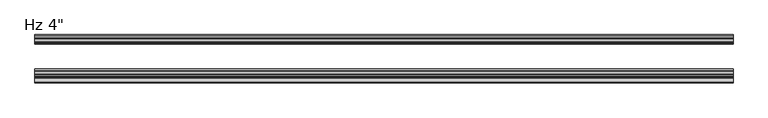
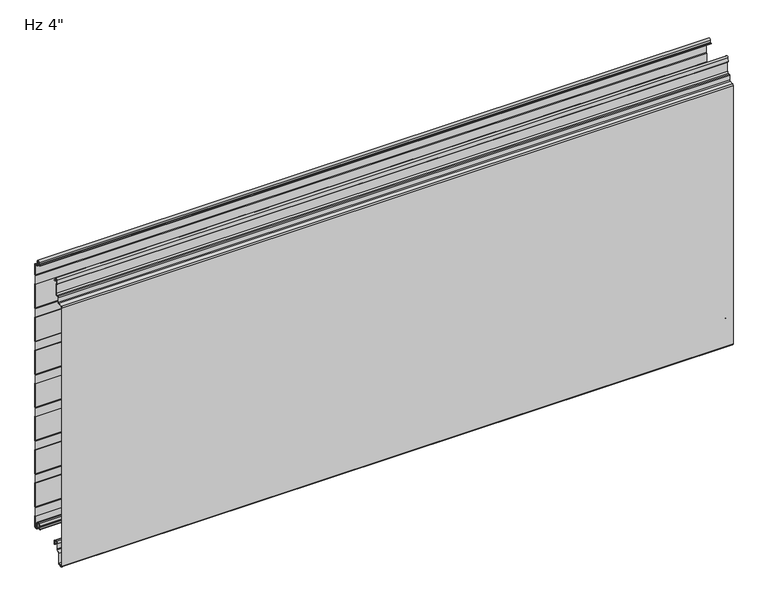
"""IFC4 building model written with IfcOpenShell, lengths in millimetres: plate geometry."""

from ifc_helpers import new_model, si_unit, point, frame, frame_2d, origin, place, context, project, spatial, polyline, circle_curve, trimmed, segment, composite_curve, outline, extrude, source, transform, mapped, element, save
from ifc_brep_helpers import plane_surface, cylinder_surface, revolved_surface, advanced_brep


def plate_d76c51f2(model_context):
    return source(origin(), model_context, "Body", "SolidModel", [
        advanced_brep(
        [(-730.0, -17.0015159, 2.0313088), (-730.0, -18.0015191, 1.0313116), (-730.0, -19.0015104, 2.0313088), (-730.0, -19.0015105, 6.0315125), (-730.0, -18.0015159, 6.0315125), (-730.0, -18.0015159, 8.7237223), (-730.0, -14.7015202, 12.023718), (-730.0, -10.301529, 12.023718), (-730.0, -7.0015335, 8.7237225), (-730.0, -7.0015335, -1.6962564), (-730.0, -5.2315393, -3.4662506), (-730.0, -0.9999916, -3.4662506), (-730.0, -0.9999916, 21.034026), (-730.0, -2.2002307, 22.4196686), (-730.0, -2.2002307, 41.7948349), (-730.0, -1.0, 43.1804679), (-730.0, -1.0, 97.2338833), (-730.0, -2.2002307, 98.6195162), (-730.0, -2.2002307, 117.9946825), (-730.0, -1.0, 119.3803155), (-730.0, -1.0, 173.4337309), (-730.0, -2.2002307, 174.8193638), (-730.0, -2.2002307, 194.1945301), (-730.0, -1.0, 195.5801631), (-730.0, -1.0, 249.6335785), (-730.0, -2.2002307, 251.0192114), (-730.0, -2.2002307, 270.3943777), (-730.0, -1.0, 271.7800107), (-730.0, -1.0, 325.8334261), (-730.0, -2.2002307, 327.219059), (-730.0, -2.2002307, 346.5942253), (-730.0, -1.0, 347.9798583), (-730.0, -1.0, 402.0332737), (-730.0, -2.2002307, 403.4189066), (-730.0, -2.2002307, 422.7940729), (-730.0, -1.0, 424.1797059), (-730.0, -1.0, 478.2331213), (-730.0, -2.2002307, 479.6187542), (-730.0, -2.2002307, 498.9939205), (-730.0, -1.0, 500.3795535), (-730.0, -1.0, 554.4329689), (-730.0, -2.2002307, 555.8186018), (-730.0, -2.2002307, 575.1937681), (-730.0, -1.0, 576.5794011), (-730.0, -1.0, 601.0787013), (-730.0, -6.0026007, 601.0787013), (-730.0, -9.9974365, 604.9016499), (-730.0, -10.4046442, 613.3931719), (-730.0, -14.7059822, 613.3921924), (-730.0, -14.9256429, 609.2513685), (-730.0, -16.6743462, 607.5686884), (-730.0, -19.0015288, 607.5686884), (-730.0, -19.0015288, 608.5686884), (-730.0, -16.6743462, 608.5686884), (-730.0, -15.9247038, 609.2955779), (-730.0, -15.7045782, 613.4451655), (-730.0, -9.405912, 613.4435732), (-730.0, -8.9985844, 604.9495495), (-730.0, -6.0004836, 602.0787013), (-730.0, -1.4015652, 602.0787013), (-730.0, -0.001568, 600.678797), (-730.0, 2.09e-05, 576.7275849), (-730.0, -0.3417885, 575.8119353), (-730.0, -1.2002307, 574.8208877), (-730.0, -1.2002307, 556.1914823), (-730.0, -0.3417885, 555.2004346), (-730.0, 0.0, 554.2838177), (-730.0, 0.0, 500.5287046), (-730.0, -0.3417885, 499.6120877), (-730.0, -1.2002307, 498.6210401), (-730.0, -1.2002307, 479.9916347), (-730.0, -0.3417885, 479.000587), (-730.0, 0.0, 478.0839701), (-730.0, 0.0, 424.328857), (-730.0, -0.3417885, 423.4122401), (-730.0, -1.2002307, 422.4211925), (-730.0, -1.2002307, 403.7917871), (-730.0, -0.3417885, 402.8007394), (-730.0, 0.0, 401.8841225), (-730.0, 0.0, 348.1290094), (-730.0, -0.3417885, 347.2123925), (-730.0, -1.2002307, 346.2213449), (-730.0, -1.2002307, 327.5919395), (-730.0, -0.3417885, 326.6008918), (-730.0, 0.0, 325.6842749), (-730.0, 0.0, 271.9291618), (-730.0, -0.3417885, 271.0125449), (-730.0, -1.2002307, 270.0214973), (-730.0, -1.2002307, 251.3920919), (-730.0, -0.3417885, 250.4010442), (-730.0, 0.0, 249.4844273), (-730.0, 0.0, 195.7293142), (-730.0, -0.3417885, 194.8126973), (-730.0, -1.2002307, 193.8216497), (-730.0, -1.2002307, 175.1922443), (-730.0, -0.3417885, 174.2011966), (-730.0, 0.0, 173.2845797), (-730.0, 0.0, 119.5294666), (-730.0, -0.3417885, 118.6128497), (-730.0, -1.2002307, 117.6218021), (-730.0, -1.2002307, 98.9923967), (-730.0, -0.3417885, 98.001349), (-730.0, 0.0, 97.0847321), (-730.0, 0.0, 43.329619), (-730.0, -0.3417885, 42.4130021), (-730.0, -1.2002307, 41.4219545), (-730.0, -1.2002307, 22.7925491), (-730.0, -0.3417885, 21.8015014), (-730.0, 0.0, 20.8847931), (-730.0, 8.4e-06, -3.0662545), (-730.0, -1.3999878, -4.4662506), (-730.0, -5.2315393, -4.4662506), (-730.0, -8.0015335, -1.6962564), (-730.0, -8.0015335, 8.7237225), (-730.0, -10.301529, 11.023718), (-730.0, -14.7015202, 11.023718), (-730.0, -17.0015159, 8.7237223), (730.0, -17.0015159, 2.0313088), (730.0, -17.0015159, 8.7237223), (730.0, -14.7015202, 11.023718), (730.0, -10.301529, 11.023718), (730.0, -8.0015335, 8.7237225), (730.0, -8.0015335, -1.6962564), (730.0, -5.2315393, -4.4662506), (730.0, -1.3999878, -4.4662506), (730.0, 8.4e-06, -3.0662545), (730.0, 8.4e-06, 20.8848845), (730.0, -0.3417885, 21.8015014), (730.0, -1.2002307, 22.7925491), (730.0, -1.2002307, 41.4219545), (730.0, -0.3417885, 42.4130021), (730.0, 0.0, 43.329619), (730.0, 0.0, 97.0847321), (730.0, -0.3417885, 98.001349), (730.0, -1.2002307, 98.9923967), (730.0, -1.2002307, 117.6218021), (730.0, -0.3417885, 118.6128497), (730.0, 0.0, 119.5294666), (730.0, 0.0, 173.2845797), (730.0, -0.3417885, 174.2011966), (730.0, -1.2002307, 175.1922443), (730.0, -1.2002307, 193.8216497), (730.0, -0.3417885, 194.8126973), (730.0, 0.0, 195.7293142), (730.0, 0.0, 249.4844273), (730.0, -0.3417885, 250.4010442), (730.0, -1.2002307, 251.3920919), (730.0, -1.2002307, 270.0214973), (730.0, -0.3417885, 271.0125449), (730.0, 0.0, 271.9291618), (730.0, 0.0, 325.6842749), (730.0, -0.3417885, 326.6008918), (730.0, -1.2002307, 327.5919395), (730.0, -1.2002307, 346.2213449), (730.0, -0.3417885, 347.2123925), (730.0, 0.0, 348.1290094), (730.0, 0.0, 401.8841225), (730.0, -0.3417885, 402.8007394), (730.0, -1.2002307, 403.7917871), (730.0, -1.2002307, 422.4211925), (730.0, -0.3417885, 423.4122401), (730.0, 0.0, 424.328857), (730.0, 0.0, 478.0839701), (730.0, -0.3417885, 479.000587), (730.0, -1.2002307, 479.9916347), (730.0, -1.2002307, 498.6210401), (730.0, -0.3417885, 499.6120877), (730.0, 0.0, 500.5287046), (730.0, 0.0, 554.2838177), (730.0, -0.3417885, 555.2004346), (730.0, -1.2002307, 556.1914823), (730.0, -1.2002307, 574.8208877), (730.0, -0.3417885, 575.8119353), (730.0, 0.0, 576.7285522), (730.0, 2.09e-05, 600.678797), (730.0, -1.4015652, 602.0787013), (730.0, -6.0004836, 602.0787013), (730.0, -8.9985844, 604.9495495), (730.0, -9.405912, 613.4435732), (730.0, -15.7045782, 613.4451655), (730.0, -15.9247038, 609.2955779), (730.0, -16.6743462, 608.5686884), (730.0, -19.0015288, 608.5686884), (730.0, -19.0015288, 607.5686884), (730.0, -16.6743462, 607.5686884), (730.0, -14.9256429, 609.2513685), (730.0, -14.7059822, 613.3921924), (730.0, -10.4046442, 613.3931719), (730.0, -9.9974365, 604.9016499), (730.0, -6.0026007, 601.0787013), (730.0, -1.0, 601.0787013), (730.0, -1.0, 576.5794011), (730.0, -2.2002307, 575.1937681), (730.0, -2.2002307, 555.8186018), (730.0, -1.0, 554.4329689), (730.0, -1.0, 500.3795535), (730.0, -2.2002307, 498.9939205), (730.0, -2.2002307, 479.6187542), (730.0, -1.0, 478.2331213), (730.0, -1.0, 424.1797059), (730.0, -2.2002307, 422.7940729), (730.0, -2.2002307, 403.4189066), (730.0, -1.0, 402.0332737), (730.0, -1.0, 347.9798583), (730.0, -2.2002307, 346.5942253), (730.0, -2.2002307, 327.219059), (730.0, -1.0, 325.8334261), (730.0, -1.0, 271.7800107), (730.0, -2.2002307, 270.3943777), (730.0, -2.2002307, 251.0192114), (730.0, -1.0, 249.6335785), (730.0, -1.0, 195.5801631), (730.0, -2.2002307, 194.1945301), (730.0, -2.2002307, 174.8193638), (730.0, -1.0, 173.4337309), (730.0, -1.0, 119.3803155), (730.0, -2.2002307, 117.9946825), (730.0, -2.2002307, 98.6195162), (730.0, -1.0, 97.2338833), (730.0, -1.0, 43.1804679), (730.0, -2.2002307, 41.7948349), (730.0, -2.2002307, 22.4196686), (730.0, -0.9999916, 21.034026), (730.0, -0.9999916, -3.4662506), (730.0, -5.2315393, -3.4662506), (730.0, -7.0015335, -1.6962564), (730.0, -7.0015335, 8.7237225), (730.0, -10.301529, 12.023718), (730.0, -14.7015202, 12.023718), (730.0, -18.0015159, 8.7237223), (730.0, -18.0015159, 6.0315125), (730.0, -19.0015105, 6.0315125), (730.0, -19.0015105, 2.0313088), (730.0, -18.0015191, 1.0313116)],
        [
            (0, 1, circle_curve(frame((-730.0, -18.0015132, 2.0313088), z_axis=(-1.0, 0.0, 0.0), x_axis=(0.0, 0.0, 1.0)), 0.9999973)),
            (1, 2, circle_curve(frame((-730.0, -18.0015132, 2.0313088), z_axis=(-1.0, 0.0, 0.0), x_axis=(0.0, 0.0, 1.0)), 0.9999972)),
            (2, 3),
            (3, 4),
            (4, 5),
            (5, 6, circle_curve(frame((-730.0, -14.7015202, 8.7237223), z_axis=(-1.0, 0.0, 0.0), x_axis=(0.0, 0.0, 1.0)), 3.2999957)),
            (6, 7),
            (7, 8, circle_curve(frame((-730.0, -10.301529, 8.7237225), z_axis=(-1.0, 0.0, 0.0), x_axis=(0.0, 0.0, 1.0)), 3.2999955)),
            (8, 9),
            (9, 10, circle_curve(frame((-730.0, -5.2315393, -1.6962564), z_axis=(1.0, 0.0, 0.0), x_axis=(0.0, 0.0, 1.0)), 1.7699942)),
            (10, 11),
            (11, 12),
            (12, 13),
            (13, 14),
            (14, 15),
            (15, 16),
            (16, 17),
            (17, 18),
            (18, 19),
            (19, 20),
            (20, 21),
            (21, 22),
            (22, 23),
            (23, 24),
            (24, 25),
            (25, 26),
            (26, 27),
            (27, 28),
            (28, 29),
            (29, 30),
            (30, 31),
            (31, 32),
            (32, 33),
            (33, 34),
            (34, 35),
            (35, 36),
            (36, 37),
            (37, 38),
            (38, 39),
            (39, 40),
            (40, 41),
            (41, 42),
            (42, 43),
            (43, 44),
            (44, 45),
            (45, 46, circle_curve(frame((-730.0, -5.9867338, 605.0939817), z_axis=(-1.0, 0.0, 0.0), x_axis=(0.0, 0.0, 1.0)), 4.0153117)),
            (46, 47),
            (47, 48, circle_curve(frame((-730.0, -12.5552871, 613.2781032), z_axis=(1.0, 0.0, 0.0), x_axis=(0.0, 0.0, 1.0)), 2.153719)),
            (48, 49),
            (49, 50, circle_curve(frame((-730.0, -16.6743462, 609.3186869), z_axis=(-1.0, 0.0, 0.0), x_axis=(0.0, 0.0, 1.0)), 1.7499985)),
            (50, 51),
            (51, 52),
            (52, 53),
            (53, 54, circle_curve(frame((-730.0, -16.6743462, 609.3186869), z_axis=(1.0, 0.0, 0.0), x_axis=(0.0, 0.0, 1.0)), 0.7499985)),
            (54, 55),
            (55, 56, circle_curve(frame((-730.0, -12.5552871, 613.2781032), z_axis=(-1.0, 0.0, 0.0), x_axis=(0.0, 0.0, 1.0)), 3.153719)),
            (56, 57),
            (57, 58, circle_curve(frame((-730.0, -5.9867338, 605.0939817), z_axis=(1.0, 0.0, 0.0), x_axis=(0.0, 0.0, 1.0)), 3.0153117)),
            (58, 59),
            (59, 60, circle_curve(frame((-730.0, -1.4015652, 600.6787041), z_axis=(-1.0, 0.0, 0.0), x_axis=(0.0, 0.0, 1.0)), 1.3999972)),
            (60, 61),
            (61, 62, circle_curve(frame((-730.0, -1.3999972, 576.7285522), z_axis=(-1.0, 0.0, 0.0), x_axis=(0.0, 0.0, 1.0)), 1.3999972)),
            (62, 63),
            (63, 64),
            (64, 65),
            (65, 66, circle_curve(frame((-730.0, -1.3999972, 554.2838177), z_axis=(-1.0, 0.0, 0.0), x_axis=(0.0, 0.0, 1.0)), 1.3999972)),
            (66, 67),
            (67, 68, circle_curve(frame((-730.0, -1.3999972, 500.5287046), z_axis=(-1.0, 0.0, 0.0), x_axis=(0.0, 0.0, 1.0)), 1.3999972)),
            (68, 69),
            (69, 70),
            (70, 71),
            (71, 72, circle_curve(frame((-730.0, -1.3999972, 478.0839701), z_axis=(-1.0, 0.0, 0.0), x_axis=(0.0, 0.0, 1.0)), 1.3999972)),
            (72, 73),
            (73, 74, circle_curve(frame((-730.0, -1.3999972, 424.328857), z_axis=(-1.0, 0.0, 0.0), x_axis=(0.0, 0.0, 1.0)), 1.3999972)),
            (74, 75),
            (75, 76),
            (76, 77),
            (77, 78, circle_curve(frame((-730.0, -1.3999972, 401.8841225), z_axis=(-1.0, 0.0, 0.0), x_axis=(0.0, 0.0, 1.0)), 1.3999972)),
            (78, 79),
            (79, 80, circle_curve(frame((-730.0, -1.3999972, 348.1290094), z_axis=(-1.0, 0.0, 0.0), x_axis=(0.0, 0.0, 1.0)), 1.3999972)),
            (80, 81),
            (81, 82),
            (82, 83),
            (83, 84, circle_curve(frame((-730.0, -1.3999972, 325.6842749), z_axis=(-1.0, 0.0, 0.0), x_axis=(0.0, 0.0, 1.0)), 1.3999972)),
            (84, 85),
            (85, 86, circle_curve(frame((-730.0, -1.3999972, 271.9291618), z_axis=(-1.0, 0.0, 0.0), x_axis=(0.0, 0.0, 1.0)), 1.3999972)),
            (86, 87),
            (87, 88),
            (88, 89),
            (89, 90, circle_curve(frame((-730.0, -1.3999972, 249.4844273), z_axis=(-1.0, 0.0, 0.0), x_axis=(0.0, 0.0, 1.0)), 1.3999972)),
            (90, 91),
            (91, 92, circle_curve(frame((-730.0, -1.3999972, 195.7293142), z_axis=(-1.0, 0.0, 0.0), x_axis=(0.0, 0.0, 1.0)), 1.3999972)),
            (92, 93),
            (93, 94),
            (94, 95),
            (95, 96, circle_curve(frame((-730.0, -1.3999972, 173.2845797), z_axis=(-1.0, 0.0, 0.0), x_axis=(0.0, 0.0, 1.0)), 1.3999972)),
            (96, 97),
            (97, 98, circle_curve(frame((-730.0, -1.3999972, 119.5294666), z_axis=(-1.0, 0.0, 0.0), x_axis=(0.0, 0.0, 1.0)), 1.3999972)),
            (98, 99),
            (99, 100),
            (100, 101),
            (101, 102, circle_curve(frame((-730.0, -1.3999972, 97.0847321), z_axis=(-1.0, 0.0, 0.0), x_axis=(0.0, 0.0, 1.0)), 1.3999972)),
            (102, 103),
            (103, 104, circle_curve(frame((-730.0, -1.3999972, 43.329619), z_axis=(-1.0, 0.0, 0.0), x_axis=(0.0, 0.0, 1.0)), 1.3999972)),
            (104, 105),
            (105, 106),
            (106, 107),
            (107, 108, circle_curve(frame((-730.0, -1.3999972, 20.8848845), z_axis=(-1.0, 0.0, 0.0), x_axis=(0.0, 0.0, 1.0)), 1.3999972)),
            (108, 109),
            (109, 110, circle_curve(frame((-730.0, -1.3999878, -3.0662545), z_axis=(-1.0, 0.0, 0.0), x_axis=(0.0, 0.0, 1.0)), 1.3999962)),
            (110, 111),
            (111, 112, circle_curve(frame((-730.0, -5.2315393, -1.6962564), z_axis=(-1.0, 0.0, 0.0), x_axis=(0.0, 0.0, 1.0)), 2.7699942)),
            (112, 113),
            (113, 114, circle_curve(frame((-730.0, -10.301529, 8.7237225), z_axis=(1.0, 0.0, 0.0), x_axis=(0.0, 0.0, 1.0)), 2.2999955)),
            (114, 115),
            (115, 116, circle_curve(frame((-730.0, -14.7015202, 8.7237223), z_axis=(1.0, 0.0, 0.0), x_axis=(0.0, 0.0, 1.0)), 2.2999957)),
            (116, 0),
            (117, 118),
            (118, 119, circle_curve(frame((730.0, -14.7015202, 8.7237223), z_axis=(-1.0, 0.0, 0.0), x_axis=(0.0, 0.0, 1.0)), 2.2999957)),
            (119, 120),
            (120, 121, circle_curve(frame((730.0, -10.301529, 8.7237225), z_axis=(-1.0, 0.0, 0.0), x_axis=(0.0, 0.0, 1.0)), 2.2999955)),
            (121, 122),
            (122, 123, circle_curve(frame((730.0, -5.2315393, -1.6962564), z_axis=(1.0, 0.0, 0.0), x_axis=(0.0, 0.0, 1.0)), 2.7699942)),
            (123, 124),
            (124, 125, circle_curve(frame((730.0, -1.3999878, -3.0662545), z_axis=(1.0, 0.0, 0.0), x_axis=(0.0, 0.0, 1.0)), 1.3999962)),
            (125, 126),
            (126, 127, circle_curve(frame((730.0, -1.3999972, 20.8848845), z_axis=(1.0, 0.0, 0.0), x_axis=(0.0, 0.0, 1.0)), 1.3999972)),
            (127, 128),
            (128, 129),
            (129, 130),
            (130, 131, circle_curve(frame((730.0, -1.3999972, 43.329619), z_axis=(1.0, 0.0, 0.0), x_axis=(0.0, 0.0, 1.0)), 1.3999972)),
            (131, 132),
            (132, 133, circle_curve(frame((730.0, -1.3999972, 97.0847321), z_axis=(1.0, 0.0, 0.0), x_axis=(0.0, 0.0, 1.0)), 1.3999972)),
            (133, 134),
            (134, 135),
            (135, 136),
            (136, 137, circle_curve(frame((730.0, -1.3999972, 119.5294666), z_axis=(1.0, 0.0, 0.0), x_axis=(0.0, 0.0, 1.0)), 1.3999972)),
            (137, 138),
            (138, 139, circle_curve(frame((730.0, -1.3999972, 173.2845797), z_axis=(1.0, 0.0, 0.0), x_axis=(0.0, 0.0, 1.0)), 1.3999972)),
            (139, 140),
            (140, 141),
            (141, 142),
            (142, 143, circle_curve(frame((730.0, -1.3999972, 195.7293142), z_axis=(1.0, 0.0, 0.0), x_axis=(0.0, 0.0, 1.0)), 1.3999972)),
            (143, 144),
            (144, 145, circle_curve(frame((730.0, -1.3999972, 249.4844273), z_axis=(1.0, 0.0, 0.0), x_axis=(0.0, 0.0, 1.0)), 1.3999972)),
            (145, 146),
            (146, 147),
            (147, 148),
            (148, 149, circle_curve(frame((730.0, -1.3999972, 271.9291618), z_axis=(1.0, 0.0, 0.0), x_axis=(0.0, 0.0, 1.0)), 1.3999972)),
            (149, 150),
            (150, 151, circle_curve(frame((730.0, -1.3999972, 325.6842749), z_axis=(1.0, 0.0, 0.0), x_axis=(0.0, 0.0, 1.0)), 1.3999972)),
            (151, 152),
            (152, 153),
            (153, 154),
            (154, 155, circle_curve(frame((730.0, -1.3999972, 348.1290094), z_axis=(1.0, 0.0, 0.0), x_axis=(0.0, 0.0, 1.0)), 1.3999972)),
            (155, 156),
            (156, 157, circle_curve(frame((730.0, -1.3999972, 401.8841225), z_axis=(1.0, 0.0, 0.0), x_axis=(0.0, 0.0, 1.0)), 1.3999972)),
            (157, 158),
            (158, 159),
            (159, 160),
            (160, 161, circle_curve(frame((730.0, -1.3999972, 424.328857), z_axis=(1.0, 0.0, 0.0), x_axis=(0.0, 0.0, 1.0)), 1.3999972)),
            (161, 162),
            (162, 163, circle_curve(frame((730.0, -1.3999972, 478.0839701), z_axis=(1.0, 0.0, 0.0), x_axis=(0.0, 0.0, 1.0)), 1.3999972)),
            (163, 164),
            (164, 165),
            (165, 166),
            (166, 167, circle_curve(frame((730.0, -1.3999972, 500.5287046), z_axis=(1.0, 0.0, 0.0), x_axis=(0.0, 0.0, 1.0)), 1.3999972)),
            (167, 168),
            (168, 169, circle_curve(frame((730.0, -1.3999972, 554.2838177), z_axis=(1.0, 0.0, 0.0), x_axis=(0.0, 0.0, 1.0)), 1.3999972)),
            (169, 170),
            (170, 171),
            (171, 172),
            (172, 173, circle_curve(frame((730.0, -1.3999972, 576.7285522), z_axis=(1.0, 0.0, 0.0), x_axis=(0.0, 0.0, 1.0)), 1.3999972)),
            (173, 174),
            (174, 175, circle_curve(frame((730.0, -1.4015652, 600.6787041), z_axis=(1.0, 0.0, 0.0), x_axis=(0.0, 0.0, 1.0)), 1.3999972)),
            (175, 176),
            (176, 177, circle_curve(frame((730.0, -5.9867338, 605.0939817), z_axis=(-1.0, 0.0, 0.0), x_axis=(0.0, 0.0, 1.0)), 3.0153117)),
            (177, 178),
            (178, 179, circle_curve(frame((730.0, -12.5552871, 613.2781032), z_axis=(1.0, 0.0, 0.0), x_axis=(0.0, 0.0, 1.0)), 3.153719)),
            (179, 180),
            (180, 181, circle_curve(frame((730.0, -16.6743462, 609.3186869), z_axis=(-1.0, 0.0, 0.0), x_axis=(0.0, 0.0, 1.0)), 0.7499985)),
            (181, 182),
            (182, 183),
            (183, 184),
            (184, 185, circle_curve(frame((730.0, -16.6743462, 609.3186869), z_axis=(1.0, 0.0, 0.0), x_axis=(0.0, 0.0, 1.0)), 1.7499985)),
            (185, 186),
            (186, 187, circle_curve(frame((730.0, -12.5552871, 613.2781032), z_axis=(-1.0, 0.0, 0.0), x_axis=(0.0, 0.0, 1.0)), 2.153719)),
            (187, 188),
            (188, 189, circle_curve(frame((730.0, -5.9867338, 605.0939817), z_axis=(1.0, 0.0, 0.0), x_axis=(0.0, 0.0, 1.0)), 4.0153117)),
            (189, 190),
            (190, 191),
            (191, 192),
            (192, 193),
            (193, 194),
            (194, 195),
            (195, 196),
            (196, 197),
            (197, 198),
            (198, 199),
            (199, 200),
            (200, 201),
            (201, 202),
            (202, 203),
            (203, 204),
            (204, 205),
            (205, 206),
            (206, 207),
            (207, 208),
            (208, 209),
            (209, 210),
            (210, 211),
            (211, 212),
            (212, 213),
            (213, 214),
            (214, 215),
            (215, 216),
            (216, 217),
            (217, 218),
            (218, 219),
            (219, 220),
            (220, 221),
            (221, 222),
            (222, 223),
            (223, 224),
            (224, 225, circle_curve(frame((730.0, -5.2315393, -1.6962564), z_axis=(-1.0, 0.0, 0.0), x_axis=(0.0, 0.0, 1.0)), 1.7699942)),
            (225, 226),
            (226, 227, circle_curve(frame((730.0, -10.301529, 8.7237225), z_axis=(1.0, 0.0, 0.0), x_axis=(0.0, 0.0, 1.0)), 3.2999955)),
            (227, 228),
            (228, 229, circle_curve(frame((730.0, -14.7015202, 8.7237223), z_axis=(1.0, 0.0, 0.0), x_axis=(0.0, 0.0, 1.0)), 3.2999957)),
            (229, 230),
            (230, 231),
            (231, 232),
            (232, 233, circle_curve(frame((730.0, -18.0015132, 2.0313088), z_axis=(1.0, 0.0, 0.0), x_axis=(0.0, 0.0, 1.0)), 0.9999972)),
            (233, 117, circle_curve(frame((730.0, -18.0015132, 2.0313088), z_axis=(1.0, 0.0, 0.0), x_axis=(0.0, 0.0, 1.0)), 0.9999973)),
            (116, 118),
            (117, 0),
            (115, 119),
            (114, 120),
            (113, 121),
            (112, 122),
            (111, 123),
            (110, 124),
            (109, 125),
            (108, 126),
            (90, 144),
            (143, 91),
            (107, 127),
            (106, 128),
            (105, 129),
            (103, 131),
            (130, 104),
            (101, 133),
            (132, 102),
            (86, 148),
            (147, 87),
            (142, 92),
            (141, 93),
            (96, 138),
            (137, 97),
            (89, 145),
            (88, 146),
            (85, 149),
            (136, 98),
            (99, 135),
            (134, 100),
            (95, 139),
            (94, 140),
            (2, 232),
            (231, 3),
            (1, 233),
            (84, 150),
            (83, 151),
            (82, 152),
            (81, 153),
            (80, 154),
            (79, 155),
            (78, 156),
            (77, 157),
            (76, 158),
            (75, 159),
            (74, 160),
            (73, 161),
            (72, 162),
            (71, 163),
            (70, 164),
            (69, 165),
            (68, 166),
            (67, 167),
            (66, 168),
            (65, 169),
            (64, 170),
            (63, 171),
            (62, 172),
            (61, 173),
            (60, 174),
            (59, 175),
            (58, 176),
            (57, 177),
            (56, 178),
            (55, 179),
            (54, 180),
            (53, 181),
            (52, 182),
            (51, 183),
            (50, 184),
            (49, 185),
            (48, 186),
            (47, 187),
            (46, 188),
            (45, 189),
            (44, 190),
            (43, 191),
            (42, 192),
            (41, 193),
            (40, 194),
            (39, 195),
            (38, 196),
            (37, 197),
            (36, 198),
            (35, 199),
            (34, 200),
            (33, 201),
            (32, 202),
            (31, 203),
            (30, 204),
            (29, 205),
            (28, 206),
            (27, 207),
            (26, 208),
            (25, 209),
            (24, 210),
            (23, 211),
            (22, 212),
            (21, 213),
            (20, 214),
            (19, 215),
            (18, 216),
            (17, 217),
            (16, 218),
            (15, 219),
            (14, 220),
            (13, 221),
            (12, 222),
            (11, 223),
            (10, 224),
            (9, 225),
            (8, 226),
            (7, 227),
            (6, 228),
            (5, 229),
            (4, 230),
        ],
        [
            plane_surface(frame((-730.0, 0.0, 304.8), z_axis=(-1.0, 0.0, 0.0), x_axis=(0.0, 1.0, 0.0))),
            plane_surface(frame((730.0, 0.0, 304.8), z_axis=(1.0, 0.0, 0.0), x_axis=(0.0, 1.0, 0.0))),
            plane_surface(frame((-730.0, -17.0015159, 2.0313088), z_axis=(0.0, 1.0, 0.0), x_axis=(1.0, 0.0, 0.0))),
            revolved_surface(polyline([(730.0, -14.7015202, 11.023718), (-730.0, -14.7015202, 11.023718)]), (-730.0, -14.7015202, 8.7237223), (1.0, 0.0, 0.0)),
            plane_surface(frame((-730.0, -14.7015202, 11.023718), z_axis=(0.0, 0.0, -1.0), x_axis=(1.0, 0.0, 0.0))),
            revolved_surface(polyline([(730.0, -10.301529, 11.023717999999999), (-730.0, -10.301529, 11.023717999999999)]), (-730.0, -10.301529, 8.7237225), (1.0, 0.0, 0.0)),
            plane_surface(frame((-730.0, -8.0015335, 8.7237225), z_axis=(0.0, -1.0, 0.0), x_axis=(1.0, 0.0, 0.0))),
            cylinder_surface(frame((-730.0, -5.2315393, -1.6962564), z_axis=(-1.0, 0.0, 0.0), x_axis=(0.0, 0.0, 1.0)), 2.7699942),
            plane_surface(frame((-730.0, -5.2315393, -4.4662506), z_axis=(0.0, 0.0, -1.0), x_axis=(1.0, 0.0, 0.0))),
            cylinder_surface(frame((-730.0, -1.3999878, -3.0662545), z_axis=(-1.0, 0.0, 0.0), x_axis=(0.0, 0.0, 1.0)), 1.3999962),
            plane_surface(frame((-730.0, 8.4e-06, -3.0662545), z_axis=(0.0, 1.0, 0.0), x_axis=(1.0, 0.0, 0.0))),
            plane_surface(frame((-730.0, 0.0, 195.7293142), z_axis=(0.0, 1.0, 0.0), x_axis=(1.0, 0.0, 0.0))),
            cylinder_surface(frame((-730.0, -1.3999972, 20.8848845), z_axis=(-1.0, 0.0, 0.0), x_axis=(0.0, 0.0, 1.0)), 1.3999972),
            plane_surface(frame((-730.0, -0.3417885, 21.8015014), z_axis=(0.0, 0.755864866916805, 0.6547276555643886), x_axis=(1.0, 0.0, 0.0))),
            plane_surface(frame((-730.0, -1.2002307, 32.1072518), z_axis=(0.0, 1.0, 0.0), x_axis=(1.0, 0.0, 0.0))),
            cylinder_surface(frame((-730.0, -1.3999972, 43.329619), z_axis=(-1.0, 0.0, 0.0), x_axis=(0.0, 0.0, 1.0)), 1.3999972),
            plane_surface(frame((-730.0, -1.2002307, 41.4219545), z_axis=(0.0, 0.755864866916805, -0.6547276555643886), x_axis=(1.0, 0.0, 0.0))),
            cylinder_surface(frame((-730.0, -1.3999972, 97.0847321), z_axis=(-1.0, 0.0, 0.0), x_axis=(0.0, 0.0, 1.0)), 1.3999972),
            plane_surface(frame((-730.0, -1.2002307, 270.0214973), z_axis=(0.0, 0.755864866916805, -0.6547276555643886), x_axis=(1.0, 0.0, 0.0))),
            cylinder_surface(frame((-730.0, -1.3999972, 195.7293142), z_axis=(-1.0, 0.0, 0.0), x_axis=(0.0, 0.0, 1.0)), 1.3999972),
            plane_surface(frame((-730.0, -1.2002307, 193.8216497), z_axis=(0.0, 0.755864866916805, -0.6547276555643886), x_axis=(1.0, 0.0, 0.0))),
            plane_surface(frame((-730.0, 0.0, 119.5294666), z_axis=(0.0, 1.0, 0.0), x_axis=(1.0, 0.0, 0.0))),
            cylinder_surface(frame((-730.0, -1.3999972, 249.4844273), z_axis=(-1.0, 0.0, 0.0), x_axis=(0.0, 0.0, 1.0)), 1.3999972),
            plane_surface(frame((-730.0, -0.3417885, 250.4010442), z_axis=(0.0, 0.755864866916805, 0.6547276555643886), x_axis=(1.0, 0.0, 0.0))),
            plane_surface(frame((-730.0, -1.2002307, 260.7067946), z_axis=(0.0, 1.0, 0.0), x_axis=(1.0, 0.0, 0.0))),
            cylinder_surface(frame((-730.0, -1.3999972, 271.9291618), z_axis=(-1.0, 0.0, 0.0), x_axis=(0.0, 0.0, 1.0)), 1.3999972),
            cylinder_surface(frame((-730.0, -1.3999972, 119.5294666), z_axis=(-1.0, 0.0, 0.0), x_axis=(0.0, 0.0, 1.0)), 1.3999972),
            plane_surface(frame((-730.0, -1.2002307, 108.3070994), z_axis=(0.0, 1.0, 0.0), x_axis=(1.0, 0.0, 0.0))),
            plane_surface(frame((-730.0, -0.3417885, 98.001349), z_axis=(0.0, 0.755864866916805, 0.6547276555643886), x_axis=(1.0, 0.0, 0.0))),
            plane_surface(frame((-730.0, -1.2002307, 117.6218021), z_axis=(0.0, 0.755864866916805, -0.6547276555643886), x_axis=(1.0, 0.0, 0.0))),
            plane_surface(frame((-730.0, 0.0, 43.329619), z_axis=(0.0, 1.0, 0.0), x_axis=(1.0, 0.0, 0.0))),
            cylinder_surface(frame((-730.0, -1.3999972, 173.2845797), z_axis=(-1.0, 0.0, 0.0), x_axis=(0.0, 0.0, 1.0)), 1.3999972),
            plane_surface(frame((-730.0, -0.3417885, 174.2011966), z_axis=(0.0, 0.755864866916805, 0.6547276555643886), x_axis=(1.0, 0.0, 0.0))),
            plane_surface(frame((-730.0, -1.2002307, 184.506947), z_axis=(0.0, 1.0, 0.0), x_axis=(1.0, 0.0, 0.0))),
            plane_surface(frame((-730.0, -19.0015105, 6.0315125), z_axis=(0.0, -1.0, 0.0), x_axis=(1.0, 0.0, 0.0))),
            cylinder_surface(frame((-730.0, -18.0015132, 2.0313088), z_axis=(-1.0, 0.0, 0.0), x_axis=(0.0, 0.0, 1.0)), 0.9999972),
            cylinder_surface(frame((-730.0, -18.0015132, 2.0313088), z_axis=(-1.0, 0.0, 0.0), x_axis=(0.0, 0.0, 1.0)), 0.9999973),
            plane_surface(frame((-730.0, 0.0, 271.9291618), z_axis=(0.0, 1.0, 0.0), x_axis=(1.0, 0.0, 0.0))),
            cylinder_surface(frame((-730.0, -1.3999972, 325.6842749), z_axis=(-1.0, 0.0, 0.0), x_axis=(0.0, 0.0, 1.0)), 1.3999972),
            plane_surface(frame((-730.0, -0.3417885, 326.6008918), z_axis=(0.0, 0.755864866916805, 0.6547276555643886), x_axis=(1.0, 0.0, 0.0))),
            plane_surface(frame((-730.0, -1.2002307, 336.9066422), z_axis=(0.0, 1.0, 0.0), x_axis=(1.0, 0.0, 0.0))),
            plane_surface(frame((-730.0, -1.2002307, 346.2213449), z_axis=(0.0, 0.755864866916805, -0.6547276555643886), x_axis=(1.0, 0.0, 0.0))),
            cylinder_surface(frame((-730.0, -1.3999972, 348.1290094), z_axis=(-1.0, 0.0, 0.0), x_axis=(0.0, 0.0, 1.0)), 1.3999972),
            plane_surface(frame((-730.0, 0.0, 348.1290094), z_axis=(0.0, 1.0, 0.0), x_axis=(1.0, 0.0, 0.0))),
            cylinder_surface(frame((-730.0, -1.3999972, 401.8841225), z_axis=(-1.0, 0.0, 0.0), x_axis=(0.0, 0.0, 1.0)), 1.3999972),
            plane_surface(frame((-730.0, -0.3417885, 402.8007394), z_axis=(0.0, 0.755864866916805, 0.6547276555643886), x_axis=(1.0, 0.0, 0.0))),
            plane_surface(frame((-730.0, -1.2002307, 413.1064898), z_axis=(0.0, 1.0, 0.0), x_axis=(1.0, 0.0, 0.0))),
            plane_surface(frame((-730.0, -1.2002307, 422.4211925), z_axis=(0.0, 0.755864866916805, -0.6547276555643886), x_axis=(1.0, 0.0, 0.0))),
            cylinder_surface(frame((-730.0, -1.3999972, 424.328857), z_axis=(-1.0, 0.0, 0.0), x_axis=(0.0, 0.0, 1.0)), 1.3999972),
            plane_surface(frame((-730.0, 0.0, 424.328857), z_axis=(0.0, 1.0, 0.0), x_axis=(1.0, 0.0, 0.0))),
            cylinder_surface(frame((-730.0, -1.3999972, 478.0839701), z_axis=(-1.0, 0.0, 0.0), x_axis=(0.0, 0.0, 1.0)), 1.3999972),
            plane_surface(frame((-730.0, -0.3417885, 479.000587), z_axis=(0.0, 0.755864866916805, 0.6547276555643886), x_axis=(1.0, 0.0, 0.0))),
            plane_surface(frame((-730.0, -1.2002307, 489.3063374), z_axis=(0.0, 1.0, 0.0), x_axis=(1.0, 0.0, 0.0))),
            plane_surface(frame((-730.0, -1.2002307, 498.6210401), z_axis=(0.0, 0.755864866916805, -0.6547276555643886), x_axis=(1.0, 0.0, 0.0))),
            cylinder_surface(frame((-730.0, -1.3999972, 500.5287046), z_axis=(-1.0, 0.0, 0.0), x_axis=(0.0, 0.0, 1.0)), 1.3999972),
            plane_surface(frame((-730.0, 0.0, 500.5287046), z_axis=(0.0, 1.0, 0.0), x_axis=(1.0, 0.0, 0.0))),
            cylinder_surface(frame((-730.0, -1.3999972, 554.2838177), z_axis=(-1.0, 0.0, 0.0), x_axis=(0.0, 0.0, 1.0)), 1.3999972),
            plane_surface(frame((-730.0, -0.3417885, 555.2004346), z_axis=(0.0, 0.755864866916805, 0.6547276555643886), x_axis=(1.0, 0.0, 0.0))),
            plane_surface(frame((-730.0, -1.2002307, 565.506185), z_axis=(0.0, 1.0, 0.0), x_axis=(1.0, 0.0, 0.0))),
            plane_surface(frame((-730.0, -1.2002307, 574.8208877), z_axis=(0.0, 0.755864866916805, -0.6547276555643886), x_axis=(1.0, 0.0, 0.0))),
            cylinder_surface(frame((-730.0, -1.3999972, 576.7285522), z_axis=(-1.0, 0.0, 0.0), x_axis=(0.0, 0.0, 1.0)), 1.3999972),
            plane_surface(frame((-730.0, 2.09e-05, 576.7275849), z_axis=(0.0, 1.0, 0.0), x_axis=(1.0, 0.0, 0.0))),
            cylinder_surface(frame((-730.0, -1.4015652, 600.6787041), z_axis=(-1.0, 0.0, 0.0), x_axis=(0.0, 0.0, 1.0)), 1.3999972),
            plane_surface(frame((-730.0, -1.4015652, 602.0787013), z_axis=(0.0, 0.0, 1.0), x_axis=(1.0, 0.0, 0.0))),
            revolved_surface(polyline([(730.0, -5.9867338, 608.1092934), (-730.0, -5.9867338, 608.1092934)]), (-730.0, -5.9867338, 605.0939817), (1.0, 0.0, 0.0)),
            plane_surface(frame((-730.0, -8.9985844, 604.9495495), z_axis=(0.0, 0.9988521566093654, 0.047899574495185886), x_axis=(1.0, 0.0, 0.0))),
            cylinder_surface(frame((-730.0, -12.5552871, 613.2781032), z_axis=(-1.0, 0.0, 0.0), x_axis=(0.0, 0.0, 1.0)), 3.153719),
            plane_surface(frame((-730.0, -15.7045782, 613.4451655), z_axis=(0.0, -0.9985959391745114, 0.05297310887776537), x_axis=(1.0, 0.0, 0.0))),
            revolved_surface(polyline([(730.0, -16.6743462, 610.0686853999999), (-730.0, -16.6743462, 610.0686853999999)]), (-730.0, -16.6743462, 609.3186869), (1.0, 0.0, 0.0)),
            plane_surface(frame((-730.0, -17.5871409, 608.5686884), z_axis=(0.0, 0.0, 1.0), x_axis=(1.0, 0.0, 0.0))),
            plane_surface(frame((-730.0, -19.0015288, 608.5686884), z_axis=(0.0, -1.0, 0.0), x_axis=(1.0, 0.0, 0.0))),
            plane_surface(frame((-730.0, -17.5871409, 607.5686884), z_axis=(0.0, 0.0, -1.0), x_axis=(1.0, 0.0, 0.0))),
            cylinder_surface(frame((-730.0, -16.6743462, 609.3186869), z_axis=(-1.0, 0.0, 0.0), x_axis=(0.0, 0.0, 1.0)), 1.7499985),
            plane_surface(frame((-730.0, -14.9256429, 609.2513685), z_axis=(0.0, 0.998595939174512, -0.05297310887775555), x_axis=(1.0, 0.0, 0.0))),
            revolved_surface(polyline([(730.0, -12.5552871, 615.4318222), (-730.0, -12.5552871, 615.4318222)]), (-730.0, -12.5552871, 613.2781032), (1.0, 0.0, 0.0)),
            plane_surface(frame((-730.0, -10.4046442, 613.3931719), z_axis=(0.0, -0.9988521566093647, -0.04789957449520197), x_axis=(1.0, 0.0, 0.0))),
            cylinder_surface(frame((-730.0, -5.9867338, 605.0939817), z_axis=(-1.0, 0.0, 0.0), x_axis=(0.0, 0.0, 1.0)), 4.0153117),
            plane_surface(frame((-730.0, -6.0026007, 601.0787013), z_axis=(0.0, 0.0, -1.0), x_axis=(1.0, 0.0, 0.0))),
            plane_surface(frame((-730.0, -1.0, 601.0787013), z_axis=(0.0, -1.0, 0.0), x_axis=(1.0, 0.0, 0.0))),
            plane_surface(frame((-730.0, -1.0, 576.5794011), z_axis=(0.0, -0.755864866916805, 0.6547276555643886), x_axis=(1.0, 0.0, 0.0))),
            plane_surface(frame((-730.0, -2.2002307, 575.1937681), z_axis=(0.0, -1.0, 0.0), x_axis=(1.0, 0.0, 0.0))),
            plane_surface(frame((-730.0, -2.2002307, 555.8186018), z_axis=(0.0, -0.755864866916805, -0.6547276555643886), x_axis=(1.0, 0.0, 0.0))),
            plane_surface(frame((-730.0, -1.0, 554.4329689), z_axis=(0.0, -1.0, 0.0), x_axis=(1.0, 0.0, 0.0))),
            plane_surface(frame((-730.0, -1.0, 500.3795535), z_axis=(0.0, -0.755864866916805, 0.6547276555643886), x_axis=(1.0, 0.0, 0.0))),
            plane_surface(frame((-730.0, -2.2002307, 498.9939205), z_axis=(0.0, -1.0, 0.0), x_axis=(1.0, 0.0, 0.0))),
            plane_surface(frame((-730.0, -2.2002307, 479.6187542), z_axis=(0.0, -0.755864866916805, -0.6547276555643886), x_axis=(1.0, 0.0, 0.0))),
            plane_surface(frame((-730.0, -1.0, 478.2331213), z_axis=(0.0, -1.0, 0.0), x_axis=(1.0, 0.0, 0.0))),
            plane_surface(frame((-730.0, -1.0, 424.1797059), z_axis=(0.0, -0.755864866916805, 0.6547276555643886), x_axis=(1.0, 0.0, 0.0))),
            plane_surface(frame((-730.0, -2.2002307, 422.7940729), z_axis=(0.0, -1.0, 0.0), x_axis=(1.0, 0.0, 0.0))),
            plane_surface(frame((-730.0, -2.2002307, 403.4189066), z_axis=(0.0, -0.755864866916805, -0.6547276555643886), x_axis=(1.0, 0.0, 0.0))),
            plane_surface(frame((-730.0, -1.0, 402.0332737), z_axis=(0.0, -1.0, 0.0), x_axis=(1.0, 0.0, 0.0))),
            plane_surface(frame((-730.0, -1.0, 347.9798583), z_axis=(0.0, -0.755864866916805, 0.6547276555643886), x_axis=(1.0, 0.0, 0.0))),
            plane_surface(frame((-730.0, -2.2002307, 346.5942253), z_axis=(0.0, -1.0, 0.0), x_axis=(1.0, 0.0, 0.0))),
            plane_surface(frame((-730.0, -2.2002307, 327.219059), z_axis=(0.0, -0.755864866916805, -0.6547276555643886), x_axis=(1.0, 0.0, 0.0))),
            plane_surface(frame((-730.0, -1.0, 325.8334261), z_axis=(0.0, -1.0, 0.0), x_axis=(1.0, 0.0, 0.0))),
            plane_surface(frame((-730.0, -1.0, 271.7800107), z_axis=(0.0, -0.755864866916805, 0.6547276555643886), x_axis=(1.0, 0.0, 0.0))),
            plane_surface(frame((-730.0, -2.2002307, 270.3943777), z_axis=(0.0, -1.0, 0.0), x_axis=(1.0, 0.0, 0.0))),
            plane_surface(frame((-730.0, -2.2002307, 251.0192114), z_axis=(0.0, -0.755864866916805, -0.6547276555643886), x_axis=(1.0, 0.0, 0.0))),
            plane_surface(frame((-730.0, -1.0, 249.6335785), z_axis=(0.0, -1.0, 0.0), x_axis=(1.0, 0.0, 0.0))),
            plane_surface(frame((-730.0, -1.0, 195.5801631), z_axis=(0.0, -0.755864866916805, 0.6547276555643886), x_axis=(1.0, 0.0, 0.0))),
            plane_surface(frame((-730.0, -2.2002307, 194.1945301), z_axis=(0.0, -1.0, 0.0), x_axis=(1.0, 0.0, 0.0))),
            plane_surface(frame((-730.0, -2.2002307, 174.8193638), z_axis=(0.0, -0.755864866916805, -0.6547276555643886), x_axis=(1.0, 0.0, 0.0))),
            plane_surface(frame((-730.0, -1.0, 173.4337309), z_axis=(0.0, -1.0, 0.0), x_axis=(1.0, 0.0, 0.0))),
            plane_surface(frame((-730.0, -1.0, 119.3803155), z_axis=(0.0, -0.755864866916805, 0.6547276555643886), x_axis=(1.0, 0.0, 0.0))),
            plane_surface(frame((-730.0, -2.2002307, 117.9946825), z_axis=(0.0, -1.0, 0.0), x_axis=(1.0, 0.0, 0.0))),
            plane_surface(frame((-730.0, -2.2002307, 98.6195162), z_axis=(0.0, -0.755864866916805, -0.6547276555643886), x_axis=(1.0, 0.0, 0.0))),
            plane_surface(frame((-730.0, -1.0, 97.2338833), z_axis=(0.0, -1.0, 0.0), x_axis=(1.0, 0.0, 0.0))),
            plane_surface(frame((-730.0, -1.0, 43.1804679), z_axis=(0.0, -0.755864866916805, 0.6547276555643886), x_axis=(1.0, 0.0, 0.0))),
            plane_surface(frame((-730.0, -2.2002307, 41.7948349), z_axis=(0.0, -1.0, 0.0), x_axis=(1.0, 0.0, 0.0))),
            plane_surface(frame((-730.0, -2.2002307, 22.4196686), z_axis=(0.0, -0.755864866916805, -0.6547276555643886), x_axis=(1.0, 0.0, 0.0))),
            plane_surface(frame((-730.0, -0.9999916, 21.034026), z_axis=(0.0, -1.0, 0.0), x_axis=(1.0, 0.0, 0.0))),
            plane_surface(frame((-730.0, -0.9999916, -3.4662506), z_axis=(0.0, 0.0, 1.0), x_axis=(1.0, 0.0, 0.0))),
            revolved_surface(polyline([(730.0, -5.2315393, 0.07373779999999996), (-730.0, -5.2315393, 0.07373779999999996)]), (-730.0, -5.2315393, -1.6962564), (1.0, 0.0, 0.0)),
            plane_surface(frame((-730.0, -7.0015335, -1.6962564), z_axis=(0.0, 1.0, 0.0), x_axis=(1.0, 0.0, 0.0))),
            cylinder_surface(frame((-730.0, -10.301529, 8.7237225), z_axis=(-1.0, 0.0, 0.0), x_axis=(0.0, 0.0, 1.0)), 3.2999955),
            plane_surface(frame((-730.0, -10.301529, 12.023718), z_axis=(0.0, 0.0, 1.0), x_axis=(1.0, 0.0, 0.0))),
            cylinder_surface(frame((-730.0, -14.7015202, 8.7237223), z_axis=(-1.0, 0.0, 0.0), x_axis=(0.0, 0.0, 1.0)), 3.2999957),
            plane_surface(frame((-730.0, -18.0015159, 8.7237223), z_axis=(0.0, -1.0, 0.0), x_axis=(1.0, 0.0, 0.0))),
            plane_surface(frame((-730.0, -18.0015159, 6.0315125), z_axis=(0.0, 0.0, 1.0), x_axis=(1.0, 0.0, 0.0))),
        ],
        [
            (0, [[1, 2, 3, 4, 5, 6, 7, 8, 9, 10, 11, 12, 13, 14, 15, 16, 17, 18, 19, 20, 21, 22, 23, 24, 25, 26, 27, 28, 29, 30, 31, 32, 33, 34, 35, 36, 37, 38, 39, 40, 41, 42, 43, 44, 45, 46, 47, 48, 49, 50, 51, 52, 53, 54, 55, 56, 57, 58, 59, 60, 61, 62, 63, 64, 65, 66, 67, 68, 69, 70, 71, 72, 73, 74, 75, 76, 77, 78, 79, 80, 81, 82, 83, 84, 85, 86, 87, 88, 89, 90, 91, 92, 93, 94, 95, 96, 97, 98, 99, 100, 101, 102, 103, 104, 105, 106, 107, 108, 109, 110, 111, 112, 113, 114, 115, 116, 117]]),
            (1, [[118, 119, 120, 121, 122, 123, 124, 125, 126, 127, 128, 129, 130, 131, 132, 133, 134, 135, 136, 137, 138, 139, 140, 141, 142, 143, 144, 145, 146, 147, 148, 149, 150, 151, 152, 153, 154, 155, 156, 157, 158, 159, 160, 161, 162, 163, 164, 165, 166, 167, 168, 169, 170, 171, 172, 173, 174, 175, 176, 177, 178, 179, 180, 181, 182, 183, 184, 185, 186, 187, 188, 189, 190, 191, 192, 193, 194, 195, 196, 197, 198, 199, 200, 201, 202, 203, 204, 205, 206, 207, 208, 209, 210, 211, 212, 213, 214, 215, 216, 217, 218, 219, 220, 221, 222, 223, 224, 225, 226, 227, 228, 229, 230, 231, 232, 233, 234]]),
            (2, [[235, -118, 236, -117]]),
            (3, [[237, -119, -235, -116]]),
            (4, [[238, -120, -237, -115]]),
            (5, [[239, -121, -238, -114]]),
            (6, [[240, -122, -239, -113]]),
            (7, [[241, -123, -240, -112]]),
            (8, [[242, -124, -241, -111]]),
            (9, [[243, -125, -242, -110]]),
            (10, [[244, -126, -243, -109]]),
            (11, [[245, -144, 246, -91]]),
            (12, [[247, -127, -244, -108]]),
            (13, [[248, -128, -247, -107]]),
            (14, [[-106, 249, -129, -248]]),
            (15, [[250, -131, 251, -104]]),
            (16, [[-251, -130, -249, -105]]),
            (17, [[252, -133, 253, -102]]),
            (18, [[254, -148, 255, -87]]),
            (19, [[-246, -143, 256, -92]]),
            (20, [[-256, -142, 257, -93]]),
            (21, [[258, -138, 259, -97]]),
            (22, [[260, -145, -245, -90]]),
            (23, [[261, -146, -260, -89]]),
            (24, [[-88, -255, -147, -261]]),
            (25, [[262, -149, -254, -86]]),
            (26, [[-259, -137, 263, -98]]),
            (27, [[-100, 264, -135, 265]]),
            (28, [[-265, -134, -252, -101]]),
            (29, [[-263, -136, -264, -99]]),
            (30, [[-253, -132, -250, -103]]),
            (31, [[266, -139, -258, -96]]),
            (32, [[267, -140, -266, -95]]),
            (33, [[-94, -257, -141, -267]]),
            (34, [[268, -232, 269, -3]]),
            (35, [[270, -233, -268, -2]]),
            (36, [[-236, -234, -270, -1]]),
            (37, [[271, -150, -262, -85]]),
            (38, [[272, -151, -271, -84]]),
            (39, [[273, -152, -272, -83]]),
            (40, [[-82, 274, -153, -273]]),
            (41, [[275, -154, -274, -81]]),
            (42, [[276, -155, -275, -80]]),
            (43, [[277, -156, -276, -79]]),
            (44, [[278, -157, -277, -78]]),
            (45, [[279, -158, -278, -77]]),
            (46, [[-76, 280, -159, -279]]),
            (47, [[281, -160, -280, -75]]),
            (48, [[282, -161, -281, -74]]),
            (49, [[283, -162, -282, -73]]),
            (50, [[284, -163, -283, -72]]),
            (51, [[285, -164, -284, -71]]),
            (52, [[-70, 286, -165, -285]]),
            (53, [[287, -166, -286, -69]]),
            (54, [[288, -167, -287, -68]]),
            (55, [[289, -168, -288, -67]]),
            (56, [[290, -169, -289, -66]]),
            (57, [[291, -170, -290, -65]]),
            (58, [[-64, 292, -171, -291]]),
            (59, [[293, -172, -292, -63]]),
            (60, [[294, -173, -293, -62]]),
            (61, [[295, -174, -294, -61]]),
            (62, [[296, -175, -295, -60]]),
            (63, [[297, -176, -296, -59]]),
            (64, [[298, -177, -297, -58]]),
            (65, [[299, -178, -298, -57]]),
            (66, [[300, -179, -299, -56]]),
            (67, [[301, -180, -300, -55]]),
            (68, [[302, -181, -301, -54]]),
            (69, [[-53, 303, -182, -302]]),
            (70, [[304, -183, -303, -52]]),
            (71, [[-51, 305, -184, -304]]),
            (72, [[306, -185, -305, -50]]),
            (73, [[307, -186, -306, -49]]),
            (74, [[308, -187, -307, -48]]),
            (75, [[309, -188, -308, -47]]),
            (76, [[310, -189, -309, -46]]),
            (77, [[311, -190, -310, -45]]),
            (78, [[312, -191, -311, -44]]),
            (79, [[313, -192, -312, -43]]),
            (80, [[314, -193, -313, -42]]),
            (81, [[315, -194, -314, -41]]),
            (82, [[316, -195, -315, -40]]),
            (83, [[317, -196, -316, -39]]),
            (84, [[318, -197, -317, -38]]),
            (85, [[319, -198, -318, -37]]),
            (86, [[320, -199, -319, -36]]),
            (87, [[321, -200, -320, -35]]),
            (88, [[322, -201, -321, -34]]),
            (89, [[323, -202, -322, -33]]),
            (90, [[324, -203, -323, -32]]),
            (91, [[325, -204, -324, -31]]),
            (92, [[326, -205, -325, -30]]),
            (93, [[327, -206, -326, -29]]),
            (94, [[328, -207, -327, -28]]),
            (95, [[329, -208, -328, -27]]),
            (96, [[330, -209, -329, -26]]),
            (97, [[331, -210, -330, -25]]),
            (98, [[332, -211, -331, -24]]),
            (99, [[333, -212, -332, -23]]),
            (100, [[334, -213, -333, -22]]),
            (101, [[335, -214, -334, -21]]),
            (102, [[336, -215, -335, -20]]),
            (103, [[337, -216, -336, -19]]),
            (104, [[338, -217, -337, -18]]),
            (105, [[339, -218, -338, -17]]),
            (106, [[340, -219, -339, -16]]),
            (107, [[341, -220, -340, -15]]),
            (108, [[342, -221, -341, -14]]),
            (109, [[343, -222, -342, -13]]),
            (110, [[344, -223, -343, -12]]),
            (111, [[345, -224, -344, -11]]),
            (112, [[346, -225, -345, -10]]),
            (113, [[347, -226, -346, -9]]),
            (114, [[348, -227, -347, -8]]),
            (115, [[349, -228, -348, -7]]),
            (116, [[350, -229, -349, -6]]),
            (117, [[351, -230, -350, -5]]),
            (118, [[-269, -231, -351, -4]]),
        ],
    ),
        extrude(outline(composite_curve([segment(trimmed(circle_curve(frame_2d((-98.0296308, -32.4521063)), 3.5702393), [point((-97.7183604, -36.0087507))], [point((-101.5998701, -32.452104))], False, "CARTESIAN"), True, "CONTINUOUS"), segment(polyline([(-101.5998701, -32.452104), (-101.5994905, 561.1384265)]), True, "CONTINUOUS"), segment(trimmed(circle_curve(frame_2d((-98.6494964, 561.1384246)), 2.9499941), [point((-101.5994905, 561.1384265))], [point((-98.9066053, 564.0771931))], False, "CARTESIAN"), True, "CONTINUOUS"), segment(polyline([(-98.9066053, 564.0771931), (-90.442179, 564.8177344)]), True, "CONTINUOUS"), segment(trimmed(circle_curve(frame_2d((-90.6191048, 566.8400056)), 2.0299959), [point((-90.442179, 564.8177344))], [point((-88.5917189, 566.9429135))], True, "CARTESIAN"), True, "CONTINUOUS"), segment(polyline([(-88.5917189, 566.9429135), (-88.5917189, 577.058279)]), True, "CONTINUOUS"), segment(trimmed(circle_curve(frame_2d((-86.6425659, 577.0595944)), 1.9491534), [point((-88.5917189, 577.058279))], [point((-86.6425659, 579.0087478))], False, "CARTESIAN"), True, "CONTINUOUS"), segment(polyline([(-86.6425659, 579.0087478), (-83.5011658, 579.0087475)]), True, "CONTINUOUS"), segment(trimmed(circle_curve(frame_2d((-83.5011658, 582.0087415)), 2.999994), [point((-83.5011658, 579.0087475))], [point((-80.5011718, 582.0087415))], True, "CARTESIAN"), True, "CONTINUOUS"), segment(polyline([(-80.5011718, 582.0087415), (-80.5011718, 602.6122013), (-81.7470159, 603.3314897)]), True, "CONTINUOUS"), segment(trimmed(circle_curve(frame_2d((-81.0220173, 604.587224)), 1.4499971), [point((-81.7470159, 603.3314897))], [point((-82.4712455, 604.6344401))], False, "CARTESIAN"), True, "CONTINUOUS"), segment(polyline([(-82.4712455, 604.6344401), (-82.1263372, 613.3463704)]), True, "CONTINUOUS"), segment(trimmed(circle_curve(frame_2d((-79.0268913, 613.2236622)), 3.1018739), [point((-82.1263372, 613.3463704))], [point((-75.9277704, 613.3543204))], False, "CARTESIAN"), True, "CONTINUOUS"), segment(polyline([(-75.9277704, 613.3543204), (-75.6839836, 609.3587)]), True, "CONTINUOUS"), segment(trimmed(circle_curve(frame_2d((-74.8437539, 609.4099653)), 0.8417922), [point((-75.6839836, 609.3587))], [point((-74.8732011, 608.5686884))], True, "CARTESIAN"), True, "CONTINUOUS"), segment(polyline([(-74.8732011, 608.5686884), (-72.1027683, 608.5686884), (-72.1027683, 607.5686884), (-74.8873149, 607.5686884)]), True, "CONTINUOUS"), segment(trimmed(circle_curve(frame_2d((-74.8437539, 609.4099653)), 1.8417922), [point((-74.8873149, 607.5686884))], [point((-76.6821274, 609.2977997))], False, "CARTESIAN"), True, "CONTINUOUS"), segment(polyline([(-76.6821274, 609.2977997), (-76.9265424, 613.3037148)]), True, "CONTINUOUS"), segment(trimmed(circle_curve(frame_2d((-79.0268913, 613.2236622)), 2.1018739), [point((-76.9265424, 613.3037148))], [point((-81.1271199, 613.306811))], True, "CARTESIAN"), True, "CONTINUOUS"), segment(polyline([(-81.1271199, 613.306811), (-81.4823803, 604.3334028), (-79.5011718, 603.1895515), (-79.5011718, 582.0087415)]), True, "CONTINUOUS"), segment(trimmed(circle_curve(frame_2d((-83.5011658, 582.0087415)), 3.999994), [point((-79.5011718, 582.0087415))], [point((-83.5011658, 578.0087475))], False, "CARTESIAN"), True, "CONTINUOUS"), segment(polyline([(-83.5011658, 578.0087475), (-86.6425659, 578.0087475)]), True, "CONTINUOUS"), segment(trimmed(circle_curve(frame_2d((-86.6425659, 577.0595944)), 0.9491534), [point((-86.6425659, 578.0087475))], [point((-87.5917189, 577.0586765))], True, "CARTESIAN"), True, "CONTINUOUS"), segment(polyline([(-87.5917189, 577.0586765), (-87.5917189, 566.9657441)]), True, "CONTINUOUS"), segment(trimmed(circle_curve(frame_2d((-90.6191048, 566.8400056)), 3.0299959), [point((-87.5917189, 566.9657441))], [point((-90.3550232, 563.8215397))], False, "CARTESIAN"), True, "CONTINUOUS"), segment(polyline([(-90.3550232, 563.8215397), (-98.8193197, 563.0810097)]), True, "CONTINUOUS"), segment(trimmed(circle_curve(frame_2d((-98.6493665, 561.1384359)), 1.9499941), [point((-98.8193197, 563.0810097))], [point((-100.5993606, 561.1384359))], True, "CARTESIAN"), True, "CONTINUOUS"), segment(polyline([(-100.5993606, 561.1384359), (-100.5993606, -32.509446)]), True, "CONTINUOUS"), segment(trimmed(circle_curve(frame_2d((-98.0297607, -32.4521176)), 2.5702393), [point((-100.5993606, -32.509446))], [point((-97.8056751, -35.0125699))], True, "CARTESIAN"), True, "CONTINUOUS"), segment(polyline([(-97.8056751, -35.0125699), (-92.8238542, -34.5765709)]), True, "CONTINUOUS"), segment(trimmed(circle_curve(frame_2d((-93.3052448, -31.9198392)), 2.6999926), [point((-92.8238542, -34.5765709))], [point((-90.6052522, -31.9198392))], True, "CARTESIAN"), True, "CONTINUOUS"), segment(polyline([(-90.6052522, -31.9198392), (-90.6052522, -9.8247096), (-85.1031811, -4.3226385)]), True, "CONTINUOUS"), segment(trimmed(circle_curve(frame_2d((-86.3052588, -3.1205608)), 1.6999946), [point((-85.1031811, -4.3226385))], [point((-84.6052642, -3.1205608))], True, "CARTESIAN"), True, "CONTINUOUS"), segment(polyline([(-84.6052642, -3.1205608), (-84.6052642, 8.6903283)]), True, "CONTINUOUS"), segment(trimmed(circle_curve(frame_2d((-81.2552689, 8.6903283)), 3.3499953), [point((-84.6052642, 8.6903283))], [point((-81.2552689, 12.0403236))], False, "CARTESIAN"), True, "CONTINUOUS"), segment(polyline([(-81.2552689, 12.0403236), (-76.8552777, 12.0403236)]), True, "CONTINUOUS"), segment(trimmed(circle_curve(frame_2d((-76.8552777, 8.6903283)), 3.3499953), [point((-76.8552777, 12.0403236))], [point((-73.5052824, 8.6903283))], False, "CARTESIAN"), True, "CONTINUOUS"), segment(polyline([(-73.5052824, 8.6903283), (-73.5052824, 5.9912173), (-72.1068035, 5.9912173), (-72.1068035, 2.2328239)]), True, "CONTINUOUS"), segment(trimmed(circle_curve(frame_2d((-73.3068002, 2.2313092)), 1.1999976), [point((-72.1068035, 2.2328239))], [point((-73.2762782, 1.0316999))], False, "CARTESIAN"), True, "CONTINUOUS"), segment(trimmed(circle_curve(frame_2d((-73.3068002, 2.2313092)), 1.1999976), [point((-73.2762782, 1.0316999))], [point((-74.5052824, 2.1710221))], False, "CARTESIAN"), True, "CONTINUOUS"), segment(polyline([(-74.5052824, 2.1710221), (-74.5052824, 8.6903283)]), True, "CONTINUOUS"), segment(trimmed(circle_curve(frame_2d((-76.8552777, 8.6903283)), 2.3499953), [point((-74.5052824, 8.6903283))], [point((-76.8552777, 11.0403236))], True, "CARTESIAN"), True, "CONTINUOUS"), segment(polyline([(-76.8552777, 11.0403236), (-81.2552689, 11.0403236)]), True, "CONTINUOUS"), segment(trimmed(circle_curve(frame_2d((-81.2552689, 8.6903283)), 2.3499953), [point((-81.2552689, 11.0403236))], [point((-83.6052642, 8.6903283))], True, "CARTESIAN"), True, "CONTINUOUS"), segment(polyline([(-83.6052642, 8.6903283), (-83.6052642, -3.1205608)]), True, "CONTINUOUS"), segment(trimmed(circle_curve(frame_2d((-86.3052588, -3.1205608)), 2.6999946), [point((-83.6052642, -3.1205608))], [point((-84.3960743, -5.0297453))], False, "CARTESIAN"), True, "CONTINUOUS"), segment(polyline([(-84.3960743, -5.0297453), (-89.2244918, -9.8581627)]), True, "CONTINUOUS"), segment(trimmed(circle_curve(frame_2d((-88.3052548, -10.7773997)), 1.2999974), [point((-89.2244918, -9.8581627))], [point((-89.6052522, -10.7773997))], True, "CARTESIAN"), True, "CONTINUOUS"), segment(polyline([(-89.6052522, -10.7773997), (-89.6052522, -31.9198392)]), True, "CONTINUOUS"), segment(trimmed(circle_curve(frame_2d((-93.3052448, -31.9198392)), 3.6999926), [point((-89.6052522, -31.9198392))], [point((-92.6944437, -35.5690675))], False, "CARTESIAN"), True, "CONTINUOUS"), segment(polyline([(-92.6944437, -35.5690675), (-97.7183604, -36.0087507)]), True, "CONTINUOUS")], self_intersect=False)), frame((-730.0, 0.0, 0.0), z_axis=(1.0, 0.0, 0.0), x_axis=(0.0, 1.0, 0.0)), (0.0, 0.0, 1.0), 1460.0),
    ])


if __name__ == "__main__":
    model = new_model("IFC4")
    model_context = context("Model", 3, world=origin())
    ifc_project = project(units=[si_unit("LENGTHUNIT", "METRE", prefix="MILLI")], contexts=[model_context])
    site = spatial("IfcSite", under=ifc_project)
    building = spatial("IfcBuilding", under=site)
    placement = place(None, origin())
    plate_shape = plate_d76c51f2(model_context)
    element("IfcPlate", 1, ObjectType="KIP-24-Karrier-KP-R19-CP-Hz-FL3-8in_SL : Hz 4\"", at=placement, inside=building, context=model_context, shape_type="MappedRepresentation", body=[
        mapped(plate_shape, transform((0.0, 0.0, 0.0), x_axis=(1.0, 0.0, 0.0), y_axis=(0.0, 1.0, 0.0), z_axis=(0.0, 0.0, 1.0))),
    ])
    save(model, "model.ifc")
